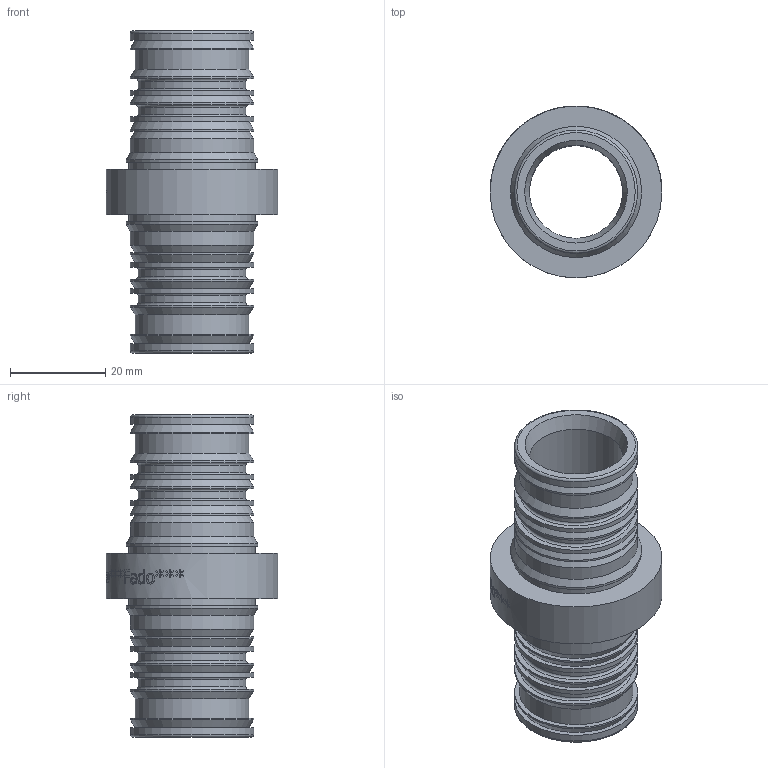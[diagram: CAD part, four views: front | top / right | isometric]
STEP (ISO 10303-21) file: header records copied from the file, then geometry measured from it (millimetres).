
FILE_DESCRIPTION(/* description */ (''),/* implementation_level */ '2;1');
FILE_NAME(/* name */ 'C:\Users\Doom\Desktop\Фадотех\Пресс\HDM09 32 Coupler 31.03.2020\HDM09 32 Coupler 31.03.2020_1.stp',/* time_stamp */ '2022-08-11T13:32:43+03:00',/* author */ ('Doom'),/* organization */ (''),/* preprocessor_version */ 'ST-DEVELOPER v18',/* originating_system */ 'Autodesk Inventor 2020',/* authorisation */ '');
FILE_SCHEMA (('AUTOMOTIVE_DESIGN { 1 0 10303 214 3 1 1 }'));
Length unit declared in the file: millimetre
Products named in the file (1): 16 Model 18.12.2019
Bounding box: 36 x 36.01 x 67.5 mm (x, y, z)
Volume: 17447.5 mm3; surface area: 12965.5 mm2
Topology: 1 solids, 1 shells, 518 faces, 1447 edges, 984 vertices
Faces by surface type: bspline 323, plane 112, cylinder 59, cone 14, torus 10
Full cylindrical faces by diameter (mm): 19.5 x1, 22.6 x4, 23.8 x2, 25.8 x16, 26.5 x2, 27.5 x2, 36 x1
Entity records: 22623 total; most frequent: CARTESIAN_POINT 11125, ORIENTED_EDGE 2894, DIRECTION 1477, EDGE_CURVE 1447, VERTEX_POINT 984, B_SPLINE_CURVE_WITH_KNOTS 646, EDGE_LOOP 573, FACE_OUTER_BOUND 518
